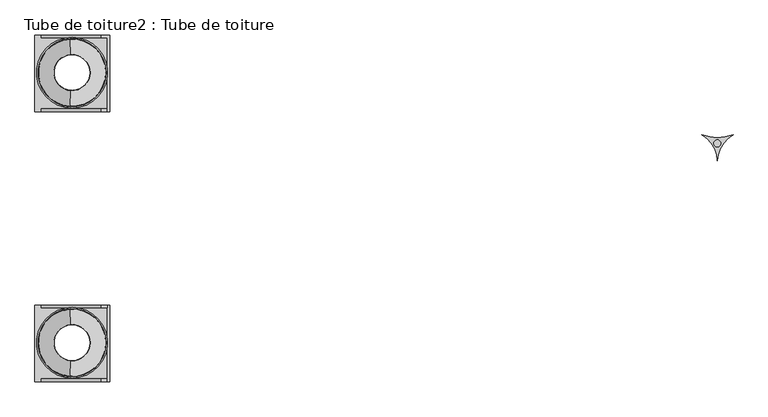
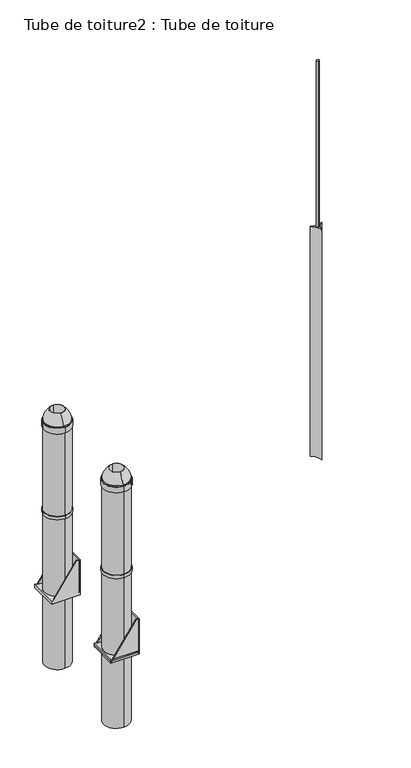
"""IFC4 building model written with IfcOpenShell, lengths in millimetres: proxy geometry, Tube de toiture2 : Tube de toiture."""

import ifcopenshell
import ifcopenshell.guid

model = None  # the IFC model being written
_history = None  # IfcOwnerHistory: only IFC2X3 demands one
_inside = {}  # id of a spatial element -> (the spatial element, [elements in it])
_under = {}  # id of a project, library or spatial element -> (it, [spatial elements below it])
_declared = {}  # id of a project -> (the project, [libraries it declares])
_typed = {}  # id of a type object -> (the type object, [elements of that type])
_made_of = {}  # id of a material, layer set ... -> (it, [elements and type objects made of it])


def new_model(schema):
    """Start an empty IFC model of exactly this schema.

    Asked for "IFC4X3", IfcOpenShell would pick the latest addendum, in which some entities
    have other attributes; the version numbers below select the first issue.
    IFC2X3 requires an IfcOwnerHistory on every rooted entity: one is made here for all.
    """
    global model, _history
    if schema == "IFC4X3":
        model = ifcopenshell.file(schema_version=(4, 3, 0, 0))
    else:
        model = ifcopenshell.file(schema=schema)
    _inside.clear()
    _under.clear()
    _declared.clear()
    _typed.clear()
    _made_of.clear()
    _history = None
    if model.schema == "IFC2X3":
        org = make("IfcOrganization", Name="unknown")
        user = make(
            "IfcPersonAndOrganization",
            ThePerson=make("IfcPerson", FamilyName="unknown"),
            TheOrganization=org,
        )
        app = make(
            "IfcApplication",
            ApplicationDeveloper=org,
            Version="unknown",
            ApplicationFullName="unknown",
            ApplicationIdentifier="unknown",
        )
        _history = make(
            "IfcOwnerHistory",
            OwningUser=user,
            OwningApplication=app,
            ChangeAction="ADDED",
            CreationDate=0,
        )
    return model


def make(cls, **values):
    """One entity of the class cls with the attributes given. An attribute that is None is left unset."""
    return model.create_entity(
        cls, **{name: value for name, value in values.items() if value is not None}
    )


def rooted(cls, **values):
    """An entity with a GlobalId (a new one), such as an element, a storey or a relation."""
    return make(cls, GlobalId=ifcopenshell.guid.new(), OwnerHistory=_history, **values)


def si_unit(unit_type, name, prefix=None):
    """IfcSIUnit, for example si_unit("LENGTHUNIT", "METRE", prefix="MILLI")."""
    return make("IfcSIUnit", UnitType=unit_type, Prefix=prefix, Name=name)


def assignment(units):
    """IfcUnitAssignment: the units of a project."""
    return None if units is None else make("IfcUnitAssignment", Units=units)


def point(xyz):
    """IfcCartesianPoint."""
    return None if xyz is None else make("IfcCartesianPoint", Coordinates=xyz)


def direction(xyz):
    """IfcDirection."""
    return None if xyz is None else make("IfcDirection", DirectionRatios=xyz)


def frame(location, z_axis=None, x_axis=None):
    """IfcAxis2Placement3D, a coordinate frame: its origin and axes. An axis left out is left unset."""
    return make(
        "IfcAxis2Placement3D",
        Location=point(location),
        Axis=direction(z_axis),
        RefDirection=direction(x_axis),
    )


def frame_2d(location, x_axis=None):
    """IfcAxis2Placement2D, a coordinate frame in the plane: its origin and x axis."""
    return make(
        "IfcAxis2Placement2D", Location=point(location), RefDirection=direction(x_axis)
    )


def origin():
    """The frame at (0, 0, 0) with its axes left unset."""
    return frame((0.0, 0.0, 0.0))


def place(relative_to, where):
    """IfcLocalPlacement: puts the frame where relative to a parent placement (None: the world)."""
    return make(
        "IfcLocalPlacement", PlacementRelTo=relative_to, RelativePlacement=where
    )


def context(
    kind, dimensions, precision=None, world=None, true_north=None, identifier=None
):
    """IfcGeometricRepresentationContext, for example the 3D "Model" context."""
    return make(
        "IfcGeometricRepresentationContext",
        ContextIdentifier=identifier,
        ContextType=kind,
        CoordinateSpaceDimension=dimensions,
        Precision=precision,
        WorldCoordinateSystem=world,
        TrueNorth=true_north,
    )


def project(units=None, contexts=None):
    """IfcProject with its units and contexts."""
    return rooted(
        "IfcProject",
        Name="project",
        RepresentationContexts=contexts,
        UnitsInContext=assignment(units),
    )


def spatial(cls, under=None, at=None, **own):
    """A site, building, storey or space (cls), placed at a placement, below another one or the project."""
    s = rooted(cls, ObjectPlacement=at, **own)
    if under is not None:
        _under.setdefault(under.id(), (under, []))[1].append(s)
    return s


def polyline(points):
    """IfcPolyline through the points."""
    return make("IfcPolyline", Points=[point(p) for p in points])


def circle_curve(where, radius):
    """IfcCircle in the frame where."""
    return make("IfcCircle", Position=where, Radius=radius)


def ellipse_curve(where, semi_axis1, semi_axis2):
    """IfcEllipse in the frame where."""
    return make(
        "IfcEllipse", Position=where, SemiAxis1=semi_axis1, SemiAxis2=semi_axis2
    )


def trimmed(basis, trim1, trim2, sense, master):
    """IfcTrimmedCurve: the piece of a basis curve between two trims."""
    return make(
        "IfcTrimmedCurve",
        BasisCurve=basis,
        Trim1=trim1,
        Trim2=trim2,
        SenseAgreement=sense,
        MasterRepresentation=master,
    )


def segment(curve, same_sense, transition):
    """IfcCompositeCurveSegment."""
    return make(
        "IfcCompositeCurveSegment",
        Transition=transition,
        SameSense=same_sense,
        ParentCurve=curve,
    )


def composite_curve(segments, self_intersect=None):
    """IfcCompositeCurve: segments joined end to end."""
    return make("IfcCompositeCurve", Segments=segments, SelfIntersect=self_intersect)


def outline(outer, holes=None, kind="AREA"):
    """IfcArbitraryClosedProfileDef: a profile drawn as a closed curve; with holes, ...WithVoids."""
    if holes is None:
        return make("IfcArbitraryClosedProfileDef", ProfileType=kind, OuterCurve=outer)
    return make(
        "IfcArbitraryProfileDefWithVoids",
        ProfileType=kind,
        OuterCurve=outer,
        InnerCurves=holes,
    )


def extrude(swept, where, along, depth):
    """IfcExtrudedAreaSolid: the profile swept, set in the frame where, extruded along a direction by depth."""
    return make(
        "IfcExtrudedAreaSolid",
        SweptArea=swept,
        Position=where,
        ExtrudedDirection=direction(along),
        Depth=depth,
    )


def shape(context_of_items, identifier, shape_type, items):
    """IfcShapeRepresentation: the items that make up one representation, for example the "Body"."""
    return make(
        "IfcShapeRepresentation",
        ContextOfItems=context_of_items,
        RepresentationIdentifier=identifier,
        RepresentationType=shape_type,
        Items=items,
    )


def source(mapping_origin, context_of_items, identifier, shape_type, items):
    """IfcRepresentationMap: a shape defined once, which mapped items show again and again."""
    return make(
        "IfcRepresentationMap",
        MappingOrigin=mapping_origin,
        MappedRepresentation=shape(context_of_items, identifier, shape_type, items),
    )


def transform(
    local_origin,
    x_axis=None,
    y_axis=None,
    z_axis=None,
    scale=None,
    scale2=None,
    scale3=None,
    uniform=True,
):
    """IfcCartesianTransformationOperator3D, or its non-uniform kind. x_axis, y_axis, z_axis: its Axis1, 2, 3."""
    if uniform:
        return make(
            "IfcCartesianTransformationOperator3D",
            Axis1=direction(x_axis),
            Axis2=direction(y_axis),
            LocalOrigin=point(local_origin),
            Scale=scale,
            Axis3=direction(z_axis),
        )
    return make(
        "IfcCartesianTransformationOperator3DnonUniform",
        Axis1=direction(x_axis),
        Axis2=direction(y_axis),
        LocalOrigin=point(local_origin),
        Scale=scale,
        Axis3=direction(z_axis),
        Scale2=scale2,
        Scale3=scale3,
    )


def mapped(mapping_source, mapping_target):
    """IfcMappedItem: shows the shape of a source again, moved by a transform."""
    return make(
        "IfcMappedItem", MappingSource=mapping_source, MappingTarget=mapping_target
    )


def made_of(thing, what):
    """Note that an element or type object is made of a material, layer set ...; save() writes the relation."""
    if what is not None:
        _made_of.setdefault(what.id(), (what, []))[1].append(thing)
    return thing


def element(
    cls,
    number,
    at=None,
    inside=None,
    cuts=None,
    type_object=None,
    material=None,
    context=None,
    identifier="Body",
    shape_type=None,
    held_by="IfcProductDefinitionShape",
    body=None,
    shapes=None,
    **own,
):
    """One element of the class cls, such as IfcWall. Its Tag is "e" and its number.

    at: its placement. inside: the storey or other place that contains it. cuts: it is an
    opening in that element (IfcRelVoidsElement). A single representation is given by context,
    identifier, shape_type and body (its items); several are given by shapes. held_by: the class
    of the entity that holds the representations. save() writes the other relations.
    """
    e = rooted(cls, Tag="e%d" % number, ObjectPlacement=at, **own)
    if body is not None:
        shapes = [shape(context, identifier, shape_type, body)]
    if shapes is not None:
        e.Representation = make(held_by, Representations=shapes)
    if inside is not None:
        _inside.setdefault(inside.id(), (inside, []))[1].append(e)
    if cuts is not None:
        rooted(
            "IfcRelVoidsElement", RelatingBuildingElement=cuts, RelatedOpeningElement=e
        )
    if type_object is not None:
        _typed.setdefault(type_object.id(), (type_object, []))[1].append(e)
    return made_of(e, material)


def aggregate(whole, parts):
    """IfcRelAggregates: a whole, such as a stair, and the parts it consists of."""
    return rooted("IfcRelAggregates", RelatingObject=whole, RelatedObjects=parts)


def save(model, path):
    """Write the relations noted so far, then the file.

    IfcRelAggregates (storeys below a building ...), IfcRelContainedInSpatialStructure (elements
    in a storey), IfcRelDefinesByType, IfcRelAssociatesMaterial and IfcRelDeclares: one each for
    every whole, place, type object, material and project.
    """
    for whole, parts in _under.values():
        aggregate(whole, parts)
    for where, things in _inside.values():
        rooted(
            "IfcRelContainedInSpatialStructure",
            RelatedElements=things,
            RelatingStructure=where,
        )
    for kind, things in _typed.values():
        rooted("IfcRelDefinesByType", RelatedObjects=things, RelatingType=kind)
    for what, things in _made_of.values():
        rooted("IfcRelAssociatesMaterial", RelatedObjects=things, RelatingMaterial=what)
    for by, libraries in _declared.values():
        rooted("IfcRelDeclares", RelatingContext=by, RelatedDefinitions=libraries)
    model.write(path)


def plane_surface(at):
    """IfcPlane: the flat surface through the origin of the frame at, square to its z axis."""
    return make("IfcPlane", Position=at)


def cylinder_surface(at, radius):
    """IfcCylindricalSurface: all points at the distance radius from the z axis of the frame at."""
    return make("IfcCylindricalSurface", Position=at, Radius=radius)


def revolved_surface(curve, axis_point, axis_direction):
    """IfcSurfaceOfRevolution: the curve turned about the line through axis_point along axis_direction."""
    return make(
        "IfcSurfaceOfRevolution",
        SweptCurve=make("IfcArbitraryOpenProfileDef", ProfileType="CURVE", Curve=curve),
        AxisPosition=make("IfcAxis1Placement", Location=point(axis_point), Axis=direction(axis_direction)),
    )


def advanced_brep(points, edges, surfaces, faces):
    """IfcAdvancedBrep: a solid bounded by faces that lie on surfaces and meet in shared edges.

    An edge is (start, end): straight between two places in points (the first is 0);
    or (start, end, curve); or (start, end, curve, False) where it runs against its curve.
    A face is (place in surfaces, loops), or (place, loops, False) where it looks against
    its surface's normal. A loop lists edges by number (the first is 1), with a minus sign
    where the edge is run from its end to its start. The first loop is the outer one.
    """
    corners = [point(p) for p in points]
    vertices = [make("IfcVertexPoint", VertexGeometry=c) for c in corners]
    made = []
    for start, end, *more in edges:
        made.append(
            make(
                "IfcEdgeCurve",
                EdgeStart=vertices[start],
                EdgeEnd=vertices[end],
                EdgeGeometry=more[0] if more else make("IfcPolyline", Points=[corners[start], corners[end]]),
                SameSense=more[1] if len(more) > 1 else True,
            )
        )
    hull = []
    for where, loops, *sense in faces:
        bounds = []
        for j, loop in enumerate(loops):
            ring = [make("IfcOrientedEdge", EdgeElement=made[abs(k) - 1], Orientation=k > 0) for k in loop]
            bounds.append(
                make(
                    "IfcFaceOuterBound" if j == 0 else "IfcFaceBound",
                    Bound=make("IfcEdgeLoop", EdgeList=ring),
                    Orientation=True,
                )
            )
        hull.append(make("IfcAdvancedFace", Bounds=bounds, FaceSurface=surfaces[where], SameSense=sense[0] if sense else True))
    return make("IfcAdvancedBrep", Outer=make("IfcClosedShell", CfsFaces=hull))


def tube_de_toiture2_tube_de_toiture_19f767d7(model_context):
    return source(origin(), model_context, "Body", "SolidModel", [
        extrude(outline(composite_curve([segment(trimmed(circle_curve(frame_2d((-12534.5612549, -6197.0389396)), 20.0), [point((-12534.5612549, -6177.0389396))], [point((-12534.5612549, -6217.0389396))], False, "CARTESIAN"), True, "CONTINUOUS"), segment(trimmed(circle_curve(frame_2d((-12534.5612549, -6197.0389396)), 20.0), [point((-12534.5612549, -6217.0389396))], [point((-12534.5612549, -6177.0389396))], False, "CARTESIAN"), True, "CONTINUOUS")], self_intersect=False)), frame((0.0, 0.0, 16654.5581821), z_axis=(0.0, 0.0, 1.0), x_axis=(1.0, 0.0, 0.0)), (0.0, 0.0, 1.0), 2605.9757511),
        advanced_brep(
        [(-12533.7057545, -6295.9509825, 16654.5581821), (-12445.6217029, -6148.60967, 16654.5581821), (-12621.789806, -6148.60967, 16654.5581821), (-12533.7057545, -6295.9509825, 13043.3082742), (-12621.789806, -6148.60967, 13043.3082742), (-12445.6217029, -6148.60967, 13043.3082742), (-12533.7057545, -6295.9509825, 13193.3082742), (-12445.6217029, -6148.60967, 13193.3082742), (-12621.789806, -6148.60967, 13193.3082742)],
        [
            (0, 1, circle_curve(frame((-12356.0956502, -6302.1304193, 16654.5581821), z_axis=(0.0, 0.0, -1.0), x_axis=(0.0, -1.0, 0.0)), 177.7175696)),
            (1, 2, circle_curve(frame((-12533.7057545, -5906.6007274, 16654.5581821), z_axis=(0.0, 0.0, -1.0), x_axis=(0.0, -1.0, 0.0)), 257.5405374)),
            (2, 0, circle_curve(frame((-12711.3158587, -6302.1304193, 16654.5581821), z_axis=(0.0, 0.0, -1.0), x_axis=(0.0, -1.0, 0.0)), 177.7175696)),
            (3, 4, circle_curve(frame((-12711.3158587, -6302.1304193, 13043.3082742), z_axis=(0.0, 0.0, 1.0), x_axis=(0.0, -1.0, 0.0)), 177.7175696)),
            (4, 5, circle_curve(frame((-12533.7057545, -5906.6007274, 13043.3082742), z_axis=(0.0, 0.0, 1.0), x_axis=(0.0, -1.0, 0.0)), 257.5405374)),
            (5, 3, circle_curve(frame((-12356.0956502, -6302.1304193, 13043.3082742), z_axis=(0.0, 0.0, 1.0), x_axis=(0.0, -1.0, 0.0)), 177.7175696)),
            (0, 6),
            (6, 3),
            (5, 7),
            (7, 1),
            (4, 8),
            (8, 2),
        ],
        [
            plane_surface(frame((-12356.0956502, -6479.8479889, 16654.5581821), z_axis=(0.0, 0.0, 1.0), x_axis=(-1.0, 0.0, 0.0))),
            plane_surface(frame((-12356.0956502, -6479.8479889, 13043.3082742), z_axis=(0.0, 0.0, -1.0), x_axis=(1.0, 0.0, 0.0))),
            revolved_surface(polyline([(-12356.0956502, -6479.8479889, 13043.3082742), (-12356.0956502, -6479.8479889, 16654.5581821)]), (-12356.0956502, -6302.1304193, 13043.3082742), (0.0, 0.0, -1.0)),
            revolved_surface(polyline([(-12533.7057545, -6164.1412648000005, 13043.3082742), (-12533.7057545, -6164.1412648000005, 16654.5581821)]), (-12533.7057545, -5906.6007274, 13043.3082742), (0.0, 0.0, -1.0)),
            revolved_surface(polyline([(-12711.3158587, -6479.8479889, 13043.3082742), (-12711.3158587, -6479.8479889, 16654.5581821)]), (-12711.3158587, -6302.1304193, 13043.3082742), (0.0, 0.0, -1.0)),
        ],
        [
            (0, [[1, 2, 3]]),
            (1, [[4, 5, 6]]),
            (2, [[-1, 7, 8, -6, 9, 10]]),
            (3, [[-2, -10, -9, -5, 11, 12]]),
            (4, [[-3, -12, -11, -4, -8, -7]]),
        ],
    ),
        advanced_brep(
        [(-16178.394339, -7121.8703591, 14562.0504497), (-16178.394339, -7521.8703591, 14562.0504497), (-16189.6644494, -7132.2049046, 14562.0504497), (-16189.6644494, -7511.5358135, 14562.0504497), (-16178.394339, -7121.8703591, 14651.5144417), (-16178.394339, -7521.8703591, 14651.5144417), (-16189.6644494, -7132.2049046, 14664.2533487), (-16189.6644494, -7511.5358135, 14664.2533487), (-16189.8036732, -7513.8788207, 14651.5144417), (-16189.8036732, -7129.8618975, 14651.5144417)],
        [
            (0, 1, circle_curve(frame((-16178.394339, -7321.8703591, 14562.0504497), z_axis=(0.0, 0.0, -1.0), x_axis=(0.0, -1.0, 0.0)), 200.0)),
            (1, 0, circle_curve(frame((-16178.394339, -7321.8703591, 14562.0504497), z_axis=(0.0, 0.0, -1.0), x_axis=(0.0, -1.0, 0.0)), 200.0)),
            (2, 3, circle_curve(frame((-16178.394339, -7321.8703591, 14562.0504497), z_axis=(0.0, 0.0, 1.0), x_axis=(0.0, -1.0, 0.0)), 190.0)),
            (3, 2, circle_curve(frame((-16178.394339, -7321.8703591, 14562.0504497), z_axis=(0.0, 0.0, 1.0), x_axis=(0.0, -1.0, 0.0)), 190.0)),
            (0, 4),
            (4, 5, circle_curve(frame((-16178.394339, -7321.8703591, 14651.5144417), z_axis=(0.0, 0.0, -1.0), x_axis=(0.0, -1.0, 0.0)), 200.0)),
            (5, 1),
            (5, 4, circle_curve(frame((-16178.394339, -7321.8703591, 14651.5144417), z_axis=(0.0, 0.0, -1.0), x_axis=(0.0, -1.0, 0.0)), 200.0)),
            (2, 6),
            (6, 7, circle_curve(frame((-16178.394339, -7321.8703591, 14664.2533487), z_axis=(0.0, 0.0, 1.0), x_axis=(0.0, -1.0, 0.0)), 190.0)),
            (7, 3),
            (7, 6, circle_curve(frame((-16178.394339, -7321.8703591, 14664.2533487), z_axis=(0.0, 0.0, 1.0), x_axis=(0.0, -1.0, 0.0)), 190.0)),
            (8, 9, circle_curve(frame((-16178.394339, -7321.8703591, 14651.5144417), z_axis=(0.0, 0.0, 1.0), x_axis=(-0.059316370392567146, 0.9982392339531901, 0.0)), 192.3471399)),
            (9, 6, circle_curve(frame((-16173.441676, -7405.2190611, 14607.2761589), z_axis=(0.9982392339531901, 0.059316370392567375, 0.0), x_axis=(-0.059316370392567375, 0.9982392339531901, 0.0)), 279.3676935)),
            (7, 8, circle_curve(frame((-16173.441676, -7238.5216571, 14607.2761589), z_axis=(0.9982392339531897, -0.059316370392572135, 0.0), x_axis=(-0.059316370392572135, -0.9982392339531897, 0.0)), 279.3676935)),
            (8, 9, circle_curve(frame((-16178.394339, -7321.8703591, 14651.5144417), z_axis=(0.0, 0.0, -1.0), x_axis=(-0.059316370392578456, -0.9982392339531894, 0.0)), 192.3471399)),
        ],
        [
            plane_surface(frame((-16178.394339, -7521.8703591, 14562.0504497), z_axis=(0.0, 0.0, -1.0), x_axis=(-1.0, 0.0, 0.0))),
            cylinder_surface(frame((-16178.394339, -7321.8703591, 14562.0504497), z_axis=(0.0, 0.0, 1.0), x_axis=(0.0, -1.0, 0.0)), 200.0),
            revolved_surface(polyline([(-16178.394339, -7511.8703591, 14562.0504497), (-16178.394339, -7511.8703591, 14664.2533487)]), (-16178.394339, -7321.8703591, 14601.5144417), (0.0, 0.0, -1.0)),
            revolved_surface(trimmed(ellipse_curve(frame((-16173.441676, -7405.2190611, 14607.2761589), z_axis=(-0.9982392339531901, -0.059316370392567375, 0.0), x_axis=(-0.059316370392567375, 0.9982392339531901, 0.0)), 279.3676935, 279.3676935), [point((-16184.4217193, -7220.4351662, 14816.5144417))], [point((-16189.8036732, -7129.8618975, 14651.5144417))], True, "CARTESIAN"), (-16178.394339, -7321.8703591, 14664.2533487), (0.0, 0.0, -1.0)),
            plane_surface(frame((-16178.394339, -7321.8703591, 14651.5144417), z_axis=(0.0, 0.0, 1.0000000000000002), x_axis=(-0.05931637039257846, -0.9982392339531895, 0.0))),
            revolved_surface(trimmed(ellipse_curve(frame((-16173.441676, -7238.5216571, 14607.2761589), z_axis=(0.9982392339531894, -0.05931637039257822, 0.0), x_axis=(-0.05931637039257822, -0.9982392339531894, 0.0)), 279.3676935, 279.3676935), [point((-16184.4217193, -7423.305552, 14816.5144417))], [point((-16189.8036732, -7513.8788207, 14651.5144417))], True, "CARTESIAN"), (-16178.394339, -7321.8703591, 14664.2533487), (0.0, 0.0, -1.0)),
        ],
        [
            (0, [[1, 2], [3, 4]]),
            (1, [[-1, 5, 6, 7]]),
            (1, [[-2, -7, 8, -5]]),
            (2, [[-3, 9, 10, 11]]),
            (2, [[-4, -11, 12, -9]]),
            (3, [[13, 14, -12, 15]]),
            (4, [[-6, -8], [-13, 16]]),
            (5, [[-16, -15, -10, -14]]),
        ],
    ),
        advanced_brep(
        [(-16184.4217193, -7423.305552, 14816.5144417), (-16184.4217193, -7220.4351662, 14816.5144417), (-16178.394339, -7221.8703591, 14816.5144417), (-16178.394339, -7421.8703591, 14816.5144417), (-16178.394339, -7131.8703591, 10853.3082742), (-16178.394339, -7511.8703591, 10853.3082742), (-16178.394339, -7221.8703591, 10853.3082742), (-16178.394339, -7421.8703591, 10853.3082742), (-16178.394339, -7511.8703591, 14664.2533487), (-16189.6644494, -7511.5358135, 14664.2533487), (-16189.6644494, -7132.2049046, 14664.2533487), (-16178.394339, -7131.8703591, 14664.2533487)],
        [
            (0, 1, circle_curve(frame((-16178.394339, -7321.8703591, 14816.5144417), z_axis=(0.0, 0.0, 1.0), x_axis=(-0.059316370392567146, 0.9982392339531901, 0.0)), 101.6141116)),
            (1, 0, circle_curve(frame((-16178.394339, -7321.8703591, 14816.5144417), z_axis=(0.0, 0.0, 1.0), x_axis=(-0.059316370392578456, -0.9982392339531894, 0.0)), 101.6141116)),
            (2, 3, circle_curve(frame((-16178.394339, -7321.8703591, 14816.5144417), z_axis=(0.0, 0.0, -1.0), x_axis=(0.0, -1.0, 0.0)), 100.0)),
            (3, 2, circle_curve(frame((-16178.394339, -7321.8703591, 14816.5144417), z_axis=(0.0, 0.0, -1.0), x_axis=(0.0, -1.0, 0.0)), 100.0)),
            (4, 5, circle_curve(frame((-16178.394339, -7321.8703591, 10853.3082742), z_axis=(0.0, 0.0, -1.0), x_axis=(0.0, -1.0, 0.0)), 190.0)),
            (5, 4, circle_curve(frame((-16178.394339, -7321.8703591, 10853.3082742), z_axis=(0.0, 0.0, -1.0), x_axis=(0.0, -1.0, 0.0)), 190.0)),
            (6, 7, circle_curve(frame((-16178.394339, -7321.8703591, 10853.3082742), z_axis=(0.0, 0.0, 1.0), x_axis=(0.0, -1.0, 0.0)), 100.0)),
            (7, 6, circle_curve(frame((-16178.394339, -7321.8703591, 10853.3082742), z_axis=(0.0, 0.0, 1.0), x_axis=(0.0, -1.0, 0.0)), 100.0)),
            (5, 8),
            (8, 9, circle_curve(frame((-16178.394339, -7321.8703591, 14664.2533487), z_axis=(0.0, 0.0, -1.0), x_axis=(0.0, -1.0, 0.0)), 190.0)),
            (9, 10, circle_curve(frame((-16178.394339, -7321.8703591, 14664.2533487), z_axis=(0.0, 0.0, -1.0), x_axis=(0.0, -1.0, 0.0)), 190.0)),
            (10, 11, circle_curve(frame((-16178.394339, -7321.8703591, 14664.2533487), z_axis=(0.0, 0.0, -1.0), x_axis=(0.0, -1.0, 0.0)), 190.0)),
            (11, 4),
            (11, 8, circle_curve(frame((-16178.394339, -7321.8703591, 14664.2533487), z_axis=(0.0, 0.0, -1.0), x_axis=(0.0, -1.0, 0.0)), 190.0)),
            (2, 6),
            (7, 3),
            (0, 9, circle_curve(frame((-16173.441676, -7238.5216571, 14607.2761589), z_axis=(0.9982392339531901, -0.059316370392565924, 0.0), x_axis=(-0.059316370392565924, -0.9982392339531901, 0.0)), 279.3676935)),
            (10, 1, circle_curve(frame((-16173.441676, -7405.2190611, 14607.2761589), z_axis=(0.9982392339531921, 0.05931637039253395, 0.0), x_axis=(-0.05931637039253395, 0.9982392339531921, 0.0)), 279.3676935)),
        ],
        [
            plane_surface(frame((-16178.394339, -7511.8703591, 14816.5144417), z_axis=(0.0, 0.0, 1.0), x_axis=(1.0, 0.0, 0.0))),
            plane_surface(frame((-16178.394339, -7511.8703591, 10853.3082742), z_axis=(0.0, 0.0, -1.0), x_axis=(-1.0, 0.0, 0.0))),
            cylinder_surface(frame((-16178.394339, -7321.8703591, 10853.3082742), z_axis=(0.0, 0.0, 1.0), x_axis=(0.0, -1.0, 0.0)), 190.0),
            revolved_surface(polyline([(-16178.394339, -7421.8703591, 10853.3082742), (-16178.394339, -7421.8703591, 14816.5144417)]), (-16178.394339, -7321.8703591, 10853.3082742), (0.0, 0.0, -1.0)),
            revolved_surface(trimmed(ellipse_curve(frame((-16173.441676, -7405.2190611, 14607.2761589), z_axis=(-0.9982392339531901, -0.059316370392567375, 0.0), x_axis=(-0.059316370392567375, 0.9982392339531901, 0.0)), 279.3676935, 279.3676935), [point((-16184.4217193, -7220.4351662, 14816.5144417))], [point((-16189.8036732, -7129.8618975, 14651.5144417))], True, "CARTESIAN"), (-16178.394339, -7321.8703591, 14664.2533487), (0.0, 0.0, -1.0)),
            revolved_surface(trimmed(ellipse_curve(frame((-16173.441676, -7238.5216571, 14607.2761589), z_axis=(0.9982392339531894, -0.05931637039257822, 0.0), x_axis=(-0.05931637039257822, -0.9982392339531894, 0.0)), 279.3676935, 279.3676935), [point((-16184.4217193, -7423.305552, 14816.5144417))], [point((-16189.8036732, -7513.8788207, 14651.5144417))], True, "CARTESIAN"), (-16178.394339, -7321.8703591, 14664.2533487), (0.0, 0.0, -1.0)),
        ],
        [
            (0, [[1, 2], [3, 4]]),
            (1, [[5, 6], [7, 8]]),
            (2, [[-6, 9, 10, 11, 12, 13]]),
            (2, [[-5, -13, 14, -9]]),
            (3, [[-3, 15, -8, 16]]),
            (3, [[-4, -16, -7, -15]]),
            (4, [[17, -10, -14, -12, 18, -1]]),
            (5, [[-17, -2, -18, -11]]),
        ],
    ),
        extrude(outline(polyline([(11953.3082742, -15980.9365049), (12503.3082742, -15980.9365049), (12503.3082742, -16012.1865049), (11953.3082742, -16388.1440191), (11953.3082742, -15980.9365049)])), frame((0.0, -7124.5508463, 0.0), z_axis=(0.0, 1.0, 0.0), x_axis=(0.0, 0.0, 1.0)), (0.0, 0.0, 1.0), 15.0),
        extrude(outline(composite_curve([segment(trimmed(circle_curve(frame_2d((-16178.394339, -7321.8703591)), 200.0), [point((-16178.394339, -7521.8703591))], [point((-16178.394339, -7121.8703591))], False, "CARTESIAN"), True, "CONTINUOUS"), segment(trimmed(circle_curve(frame_2d((-16178.394339, -7321.8703591)), 200.0), [point((-16178.394339, -7121.8703591))], [point((-16178.394339, -7521.8703591))], False, "CARTESIAN"), True, "CONTINUOUS")], self_intersect=False), holes=[composite_curve([segment(trimmed(circle_curve(frame_2d((-16178.394339, -7321.8703591)), 190.0), [point((-16178.394339, -7511.8703591))], [point((-16178.394339, -7131.8703591))], True, "CARTESIAN"), True, "CONTINUOUS"), segment(trimmed(circle_curve(frame_2d((-16178.394339, -7321.8703591)), 190.0), [point((-16178.394339, -7131.8703591))], [point((-16178.394339, -7511.8703591))], True, "CARTESIAN"), True, "CONTINUOUS")], self_intersect=False)]), frame((0.0, 0.0, 13213.3082742), z_axis=(0.0, 0.0, 1.0), x_axis=(1.0, 0.0, 0.0)), (0.0, 0.0, 1.0), 50.0),
        extrude(outline(polyline([(-16388.1440191, -7109.5508463), (-15965.9365049, -7109.5508463), (-15965.9365049, -7541.1697313), (-16388.1440191, -7541.1697313), (-16388.1440191, -7109.5508463)]), holes=[composite_curve([segment(trimmed(circle_curve(frame_2d((-16178.394339, -7321.8703591)), 190.0), [point((-16178.394339, -7131.8703591))], [point((-16178.394339, -7511.8703591))], True, "CARTESIAN"), True, "CONTINUOUS"), segment(trimmed(circle_curve(frame_2d((-16178.394339, -7321.8703591)), 190.0), [point((-16178.394339, -7511.8703591))], [point((-16178.394339, -7131.8703591))], True, "CARTESIAN"), True, "CONTINUOUS")], self_intersect=False)]), frame((0.0, 0.0, 11983.3082742), z_axis=(0.0, 0.0, 1.0), x_axis=(1.0, 0.0, 0.0)), (0.0, 0.0, 1.0), 20.0),
        extrude(outline(polyline([(11953.3082742, -15982.1865049), (12503.3082742, -15982.1865049), (12503.3082742, -16012.1865049), (11953.3082742, -16388.1440191), (11953.3082742, -15982.1865049)])), frame((0.0, -7541.1697313, 0.0), z_axis=(0.0, 1.0, 0.0), x_axis=(0.0, 0.0, 1.0)), (0.0, 0.0, 1.0), 15.0),
        extrude(outline(polyline([(-15980.9365049, -7109.5508463), (-15965.9365049, -7109.5508463), (-15965.9365049, -7541.1697313), (-15980.9365049, -7541.1697313), (-15980.9365049, -7109.5508463)])), frame((0.0, 0.0, 12003.3082742), z_axis=(0.0, 0.0, 1.0), x_axis=(1.0, 0.0, 0.0)), (0.0, 0.0, 1.0), 500.0),
        extrude(outline(polyline([(-16388.1440191, -7541.1697313), (-16388.1440191, -7109.5508463), (-15965.9365049, -7109.5508463), (-15965.9365049, -7541.1697313), (-16388.1440191, -7541.1697313)]), holes=[polyline([(-15980.9365049, -7124.5508463), (-16373.1440191, -7124.5508463), (-16373.1440191, -7526.1697313), (-15980.9365049, -7526.1697313), (-15980.9365049, -7124.5508463)])]), frame((0.0, 0.0, 11953.3082742), z_axis=(0.0, 0.0, 1.0), x_axis=(1.0, 0.0, 0.0)), (0.0, 0.0, 1.0), 50.0),
        extrude(outline(composite_curve([segment(trimmed(circle_curve(frame_2d((-16178.394339, -7321.8703591)), 190.0), [point((-16178.394339, -7131.8703591))], [point((-16178.394339, -7511.8703591))], False, "CARTESIAN"), True, "CONTINUOUS"), segment(trimmed(circle_curve(frame_2d((-16178.394339, -7321.8703591)), 190.0), [point((-16178.394339, -7511.8703591))], [point((-16178.394339, -7131.8703591))], False, "CARTESIAN"), True, "CONTINUOUS")], self_intersect=False), holes=[composite_curve([segment(trimmed(circle_curve(frame_2d((-16178.394339, -7321.8703591)), 165.0), [point((-16178.394339, -7486.8703591))], [point((-16178.394339, -7156.8703591))], True, "CARTESIAN"), True, "CONTINUOUS"), segment(trimmed(circle_curve(frame_2d((-16178.394339, -7321.8703591)), 165.0), [point((-16178.394339, -7156.8703591))], [point((-16178.394339, -7486.8703591))], True, "CARTESIAN"), True, "CONTINUOUS")], self_intersect=False)]), frame((0.0, 0.0, 11953.3082742), z_axis=(0.0, 0.0, 1.0), x_axis=(1.0, 0.0, 0.0)), (0.0, 0.0, 1.0), 50.0),
        advanced_brep(
        [(-16178.394339, -5596.8703591, 14562.0504497), (-16178.394339, -5996.8703591, 14562.0504497), (-16189.6644494, -5607.2049046, 14562.0504497), (-16189.6644494, -5986.5358135, 14562.0504497), (-16178.394339, -5596.8703591, 14651.5144417), (-16178.394339, -5996.8703591, 14651.5144417), (-16189.6644494, -5607.2049046, 14664.2533487), (-16189.6644494, -5986.5358135, 14664.2533487), (-16189.8036732, -5988.8788207, 14651.5144417), (-16189.8036732, -5604.8618975, 14651.5144417)],
        [
            (0, 1, circle_curve(frame((-16178.394339, -5796.8703591, 14562.0504497), z_axis=(0.0, 0.0, -1.0), x_axis=(0.0, -1.0, 0.0)), 200.0)),
            (1, 0, circle_curve(frame((-16178.394339, -5796.8703591, 14562.0504497), z_axis=(0.0, 0.0, -1.0), x_axis=(0.0, -1.0, 0.0)), 200.0)),
            (2, 3, circle_curve(frame((-16178.394339, -5796.8703591, 14562.0504497), z_axis=(0.0, 0.0, 1.0), x_axis=(0.0, -1.0, 0.0)), 190.0)),
            (3, 2, circle_curve(frame((-16178.394339, -5796.8703591, 14562.0504497), z_axis=(0.0, 0.0, 1.0), x_axis=(0.0, -1.0, 0.0)), 190.0)),
            (0, 4),
            (4, 5, circle_curve(frame((-16178.394339, -5796.8703591, 14651.5144417), z_axis=(0.0, 0.0, -1.0), x_axis=(0.0, -1.0, 0.0)), 200.0)),
            (5, 1),
            (5, 4, circle_curve(frame((-16178.394339, -5796.8703591, 14651.5144417), z_axis=(0.0, 0.0, -1.0), x_axis=(0.0, -1.0, 0.0)), 200.0)),
            (2, 6),
            (6, 7, circle_curve(frame((-16178.394339, -5796.8703591, 14664.2533487), z_axis=(0.0, 0.0, 1.0), x_axis=(0.0, -1.0, 0.0)), 190.0)),
            (7, 3),
            (7, 6, circle_curve(frame((-16178.394339, -5796.8703591, 14664.2533487), z_axis=(0.0, 0.0, 1.0), x_axis=(0.0, -1.0, 0.0)), 190.0)),
            (8, 9, circle_curve(frame((-16178.394339, -5796.8703591, 14651.5144417), z_axis=(0.0, 0.0, 1.0), x_axis=(-0.059316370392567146, 0.9982392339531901, 0.0)), 192.3471399)),
            (9, 6, circle_curve(frame((-16173.441676, -5880.2190611, 14607.2761589), z_axis=(0.9982392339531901, 0.059316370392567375, 0.0), x_axis=(-0.059316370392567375, 0.9982392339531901, 0.0)), 279.3676935)),
            (7, 8, circle_curve(frame((-16173.441676, -5713.5216571, 14607.2761589), z_axis=(0.9982392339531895, -0.0593163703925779, 0.0), x_axis=(-0.0593163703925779, -0.9982392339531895, 0.0)), 279.3676935)),
            (8, 9, circle_curve(frame((-16178.394339, -5796.8703591, 14651.5144417), z_axis=(0.0, 0.0, -1.0), x_axis=(-0.059316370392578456, -0.9982392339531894, 0.0)), 192.3471399)),
        ],
        [
            plane_surface(frame((-16178.394339, -5996.8703591, 14562.0504497), z_axis=(0.0, 0.0, -1.0), x_axis=(-1.0, 0.0, 0.0))),
            cylinder_surface(frame((-16178.394339, -5796.8703591, 14562.0504497), z_axis=(0.0, 0.0, 1.0), x_axis=(0.0, -1.0, 0.0)), 200.0),
            revolved_surface(polyline([(-16178.394339, -5986.8703591, 14562.0504497), (-16178.394339, -5986.8703591, 14664.2533487)]), (-16178.394339, -5796.8703591, 14601.5144417), (0.0, 0.0, -1.0)),
            revolved_surface(trimmed(ellipse_curve(frame((-16173.441676, -5880.2190611, 14607.2761589), z_axis=(-0.9982392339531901, -0.059316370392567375, 0.0), x_axis=(-0.059316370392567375, 0.9982392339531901, 0.0)), 279.3676935, 279.3676935), [point((-16184.4217193, -5695.4351662, 14816.5144417))], [point((-16189.8036732, -5604.8618975, 14651.5144417))], True, "CARTESIAN"), (-16178.394339, -5796.8703591, 14664.2533487), (0.0, 0.0, -1.0)),
            plane_surface(frame((-16178.394339, -5796.8703591, 14651.5144417), z_axis=(0.0, 0.0, 1.0000000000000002), x_axis=(-0.05931637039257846, -0.9982392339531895, 0.0))),
            revolved_surface(trimmed(ellipse_curve(frame((-16173.441676, -5713.5216571, 14607.2761589), z_axis=(0.9982392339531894, -0.05931637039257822, 0.0), x_axis=(-0.05931637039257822, -0.9982392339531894, 0.0)), 279.3676935, 279.3676935), [point((-16184.4217193, -5898.305552, 14816.5144417))], [point((-16189.8036732, -5988.8788207, 14651.5144417))], True, "CARTESIAN"), (-16178.394339, -5796.8703591, 14664.2533487), (0.0, 0.0, -1.0)),
        ],
        [
            (0, [[1, 2], [3, 4]]),
            (1, [[-1, 5, 6, 7]]),
            (1, [[-2, -7, 8, -5]]),
            (2, [[-3, 9, 10, 11]]),
            (2, [[-4, -11, 12, -9]]),
            (3, [[13, 14, -12, 15]]),
            (4, [[-6, -8], [-13, 16]]),
            (5, [[-16, -15, -10, -14]]),
        ],
    ),
        advanced_brep(
        [(-16184.4217193, -5898.305552, 14816.5144417), (-16184.4217193, -5695.4351662, 14816.5144417), (-16178.394339, -5696.8703591, 14816.5144417), (-16178.394339, -5896.8703591, 14816.5144417), (-16178.394339, -5606.8703591, 10853.3082742), (-16178.394339, -5986.8703591, 10853.3082742), (-16178.394339, -5696.8703591, 10853.3082742), (-16178.394339, -5896.8703591, 10853.3082742), (-16178.394339, -5986.8703591, 14664.2533487), (-16189.6644494, -5986.5358135, 14664.2533487), (-16189.6644494, -5607.2049046, 14664.2533487), (-16178.394339, -5606.8703591, 14664.2533487)],
        [
            (0, 1, circle_curve(frame((-16178.394339, -5796.8703591, 14816.5144417), z_axis=(0.0, 0.0, 1.0), x_axis=(-0.059316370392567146, 0.9982392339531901, 0.0)), 101.6141116)),
            (1, 0, circle_curve(frame((-16178.394339, -5796.8703591, 14816.5144417), z_axis=(0.0, 0.0, 1.0), x_axis=(-0.059316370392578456, -0.9982392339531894, 0.0)), 101.6141116)),
            (2, 3, circle_curve(frame((-16178.394339, -5796.8703591, 14816.5144417), z_axis=(0.0, 0.0, -1.0), x_axis=(0.0, -1.0, 0.0)), 100.0)),
            (3, 2, circle_curve(frame((-16178.394339, -5796.8703591, 14816.5144417), z_axis=(0.0, 0.0, -1.0), x_axis=(0.0, -1.0, 0.0)), 100.0)),
            (4, 5, circle_curve(frame((-16178.394339, -5796.8703591, 10853.3082742), z_axis=(0.0, 0.0, -1.0), x_axis=(0.0, -1.0, 0.0)), 190.0)),
            (5, 4, circle_curve(frame((-16178.394339, -5796.8703591, 10853.3082742), z_axis=(0.0, 0.0, -1.0), x_axis=(0.0, -1.0, 0.0)), 190.0)),
            (6, 7, circle_curve(frame((-16178.394339, -5796.8703591, 10853.3082742), z_axis=(0.0, 0.0, 1.0), x_axis=(0.0, -1.0, 0.0)), 100.0)),
            (7, 6, circle_curve(frame((-16178.394339, -5796.8703591, 10853.3082742), z_axis=(0.0, 0.0, 1.0), x_axis=(0.0, -1.0, 0.0)), 100.0)),
            (5, 8),
            (8, 9, circle_curve(frame((-16178.394339, -5796.8703591, 14664.2533487), z_axis=(0.0, 0.0, -1.0), x_axis=(0.0, -1.0, 0.0)), 190.0)),
            (9, 10, circle_curve(frame((-16178.394339, -5796.8703591, 14664.2533487), z_axis=(0.0, 0.0, -1.0), x_axis=(0.0, -1.0, 0.0)), 190.0)),
            (10, 11, circle_curve(frame((-16178.394339, -5796.8703591, 14664.2533487), z_axis=(0.0, 0.0, -1.0), x_axis=(0.0, -1.0, 0.0)), 190.0)),
            (11, 4),
            (11, 8, circle_curve(frame((-16178.394339, -5796.8703591, 14664.2533487), z_axis=(0.0, 0.0, -1.0), x_axis=(0.0, -1.0, 0.0)), 190.0)),
            (2, 6),
            (7, 3),
            (0, 9, circle_curve(frame((-16173.441676, -5713.5216571, 14607.2761589), z_axis=(0.9982392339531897, -0.05931637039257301, 0.0), x_axis=(-0.05931637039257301, -0.9982392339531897, 0.0)), 279.3676935)),
            (10, 1, circle_curve(frame((-16173.441676, -5880.2190611, 14607.2761589), z_axis=(0.9982392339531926, 0.05931637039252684, 0.0), x_axis=(-0.05931637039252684, 0.9982392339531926, 0.0)), 279.3676935)),
        ],
        [
            plane_surface(frame((-16178.394339, -5986.8703591, 14816.5144417), z_axis=(0.0, 0.0, 1.0), x_axis=(1.0, 0.0, 0.0))),
            plane_surface(frame((-16178.394339, -5986.8703591, 10853.3082742), z_axis=(0.0, 0.0, -1.0), x_axis=(-1.0, 0.0, 0.0))),
            cylinder_surface(frame((-16178.394339, -5796.8703591, 10853.3082742), z_axis=(0.0, 0.0, 1.0), x_axis=(0.0, -1.0, 0.0)), 190.0),
            revolved_surface(polyline([(-16178.394339, -5896.8703591, 10853.3082742), (-16178.394339, -5896.8703591, 14816.5144417)]), (-16178.394339, -5796.8703591, 10853.3082742), (0.0, 0.0, -1.0)),
            revolved_surface(trimmed(ellipse_curve(frame((-16173.441676, -5880.2190611, 14607.2761589), z_axis=(-0.9982392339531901, -0.059316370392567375, 0.0), x_axis=(-0.059316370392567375, 0.9982392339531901, 0.0)), 279.3676935, 279.3676935), [point((-16184.4217193, -5695.4351662, 14816.5144417))], [point((-16189.8036732, -5604.8618975, 14651.5144417))], True, "CARTESIAN"), (-16178.394339, -5796.8703591, 14664.2533487), (0.0, 0.0, -1.0)),
            revolved_surface(trimmed(ellipse_curve(frame((-16173.441676, -5713.5216571, 14607.2761589), z_axis=(0.9982392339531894, -0.05931637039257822, 0.0), x_axis=(-0.05931637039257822, -0.9982392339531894, 0.0)), 279.3676935, 279.3676935), [point((-16184.4217193, -5898.305552, 14816.5144417))], [point((-16189.8036732, -5988.8788207, 14651.5144417))], True, "CARTESIAN"), (-16178.394339, -5796.8703591, 14664.2533487), (0.0, 0.0, -1.0)),
        ],
        [
            (0, [[1, 2], [3, 4]]),
            (1, [[5, 6], [7, 8]]),
            (2, [[-6, 9, 10, 11, 12, 13]]),
            (2, [[-5, -13, 14, -9]]),
            (3, [[-3, 15, -8, 16]]),
            (3, [[-4, -16, -7, -15]]),
            (4, [[17, -10, -14, -12, 18, -1]]),
            (5, [[-17, -2, -18, -11]]),
        ],
    ),
        advanced_brep(
        [(-16388.1440191, -5584.5508463, 12003.3082742), (-16388.1440191, -6016.1697313, 12003.3082742), (-16353.9660633, -6016.1697313, 12003.3082742), (-16353.9660633, -6001.1697313, 12003.3082742), (-15982.1865049, -6001.1697313, 12003.3082742), (-15982.1865049, -6016.1697313, 12003.3082742), (-15980.9365049, -6016.1697313, 12003.3082742), (-15980.9365049, -5599.5508463, 12003.3082742), (-16353.9660633, -5599.5508463, 12003.3082742), (-16353.9660633, -5584.5508463, 12003.3082742), (-16178.394339, -5961.8703591, 12003.3082742), (-16178.394339, -5631.8703591, 12003.3082742), (-16388.1440191, -5584.5508463, 11953.3082742), (-16388.1440191, -5599.5508463, 11953.3082742), (-16388.1440191, -6016.1697313, 11953.3082742), (-16388.1440191, -6016.1697313, 11983.3082742), (-15980.9365049, -6016.1697313, 12503.3082742), (-15965.9365049, -6016.1697313, 12503.3082742), (-15965.9365049, -5584.5508463, 12503.3082742), (-16012.1865049, -5584.5508463, 12503.3082742), (-16012.1865049, -5599.5508463, 12503.3082742), (-15980.9365049, -5599.5508463, 12503.3082742), (-15965.9365049, -5584.5508463, 11953.3082742), (-15965.9365049, -6016.1697313, 12003.3082742), (-15965.9365049, -6016.1697313, 11983.3082742), (-15965.9365049, -6016.1697313, 11953.3082742), (-15980.9365049, -5599.5508463, 11953.3082742), (-15980.9365049, -6001.1697313, 11953.3082742), (-15980.9365049, -6001.1697313, 11983.3082742), (-15980.9365049, -5599.5508463, 11983.3082742), (-15982.1865049, -6016.1697313, 12503.3082742), (-16012.1865049, -6016.1697313, 12503.3082742), (-16012.1865049, -6001.1697313, 12503.3082742), (-15982.1865049, -6001.1697313, 12503.3082742), (-16373.1440191, -6001.1697313, 11953.3082742), (-16373.1440191, -6001.1697313, 11983.3082742), (-16178.394339, -5606.8703591, 11953.3082742), (-16178.394339, -5986.8703591, 11953.3082742), (-16178.394339, -5961.8703591, 11953.3082742), (-16178.394339, -5631.8703591, 11953.3082742), (-16373.1440191, -5599.5508463, 11953.3082742), (-16373.1440191, -5599.5508463, 11983.3082742), (-16367.6372456, -5599.5508463, 11983.3082742), (-16178.394339, -5606.8703591, 11983.3082742), (-16178.394339, -5986.8703591, 11983.3082742), (-16373.1440191, -5599.5508463, 11975.2522431)],
        [
            (0, 1),
            (1, 2),
            (2, 3),
            (3, 4),
            (4, 5),
            (5, 6),
            (6, 7),
            (7, 8),
            (8, 9),
            (9, 0),
            (10, 11, circle_curve(frame((-16178.394339, -5796.8703591, 12003.3082742), z_axis=(0.0, 0.0, -1.0), x_axis=(0.0, -1.0, 0.0)), 165.0)),
            (11, 10, circle_curve(frame((-16178.394339, -5796.8703591, 12003.3082742), z_axis=(0.0, 0.0, -1.0), x_axis=(0.0, -1.0, 0.0)), 165.0)),
            (0, 12),
            (12, 13),
            (13, 14),
            (14, 15),
            (15, 1),
            (16, 17),
            (17, 18),
            (18, 19),
            (19, 20),
            (20, 21),
            (21, 16),
            (22, 18),
            (17, 23),
            (23, 24),
            (24, 25),
            (25, 22),
            (22, 12),
            (9, 19),
            (6, 16),
            (21, 7),
            (26, 27),
            (27, 28),
            (28, 29),
            (29, 26),
            (30, 31),
            (31, 2),
            (14, 25),
            (5, 30),
            (32, 33),
            (33, 4),
            (3, 32),
            (27, 34),
            (34, 35),
            (35, 28),
            (33, 30),
            (31, 32),
            (36, 37, circle_curve(frame((-16178.394339, -5796.8703591, 11953.3082742), z_axis=(0.0, 0.0, -1.0), x_axis=(0.0, -1.0, 0.0)), 190.0)),
            (37, 36, circle_curve(frame((-16178.394339, -5796.8703591, 11953.3082742), z_axis=(0.0, 0.0, -1.0), x_axis=(0.0, -1.0, 0.0)), 190.0)),
            (38, 39, circle_curve(frame((-16178.394339, -5796.8703591, 11953.3082742), z_axis=(0.0, 0.0, 1.0), x_axis=(0.0, -1.0, 0.0)), 165.0)),
            (39, 38, circle_curve(frame((-16178.394339, -5796.8703591, 11953.3082742), z_axis=(0.0, 0.0, 1.0), x_axis=(0.0, -1.0, 0.0)), 165.0)),
            (26, 40),
            (40, 34),
            (35, 41),
            (41, 42),
            (42, 29),
            (43, 44, circle_curve(frame((-16178.394339, -5796.8703591, 11983.3082742), z_axis=(0.0, 0.0, 1.0), x_axis=(0.0, -1.0, 0.0)), 190.0)),
            (44, 43, circle_curve(frame((-16178.394339, -5796.8703591, 11983.3082742), z_axis=(0.0, 0.0, 1.0), x_axis=(0.0, -1.0, 0.0)), 190.0)),
            (40, 45),
            (45, 41),
            (37, 44),
            (43, 36),
            (10, 38),
            (39, 11),
            (20, 8),
        ],
        [
            plane_surface(frame((-16595.6960565, -6016.1697313, 12003.3082742), z_axis=(0.0, 0.0, 1.0), x_axis=(1.0, 0.0, 0.0))),
            plane_surface(frame((-16388.1440191, -5584.5508463, 12003.3082742), z_axis=(-1.0, 0.0, 0.0), x_axis=(0.0, 0.0, -1.0))),
            plane_surface(frame((-15980.9365049, -5973.734805, 12503.3082742), z_axis=(0.0, 0.0, 1.0), x_axis=(0.0, -1.0, 0.0))),
            plane_surface(frame((-15965.9365049, -6016.1697313, 12503.3082742), z_axis=(1.0, 0.0, 0.0), x_axis=(0.0, 0.0, -1.0))),
            plane_surface(frame((-15965.9365049, -5584.5508463, 12503.3082742), z_axis=(0.0, 1.0, 0.0), x_axis=(0.0, 0.0, -1.0))),
            plane_surface(frame((-15980.9365049, -5584.5508463, 12503.3082742), z_axis=(-1.0, 0.0, 0.0), x_axis=(0.0, 0.0, -1.0))),
            plane_surface(frame((-15982.1865049, -6016.1697313, 12503.3082742), z_axis=(0.0, -1.0, 0.0), x_axis=(0.0, 0.0, 1.0))),
            plane_surface(frame((-15982.1865049, -6001.1697313, 12503.3082742), z_axis=(0.0, 1.0, 0.0), x_axis=(0.0, 0.0, -1.0))),
            plane_surface(frame((-15982.1865049, -6016.1697313, 11953.3082742), z_axis=(1.0, 0.0, 0.0), x_axis=(0.0, 1.0, 0.0))),
            plane_surface(frame((-16012.1865049, -6016.1697313, 12503.3082742), z_axis=(-0.8255578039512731, 0.0, 0.5643175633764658), x_axis=(0.0, 1.0, 0.0))),
            plane_surface(frame((-16388.1440191, -6016.1697313, 11953.3082742), z_axis=(0.0, 0.0, -1.0), x_axis=(0.0, 1.0, 0.0))),
            plane_surface(frame((-15982.1865049, -6016.1697313, 12503.3082742), z_axis=(0.0, 0.0, 1.0), x_axis=(0.0, 1.0, 0.0))),
            plane_surface(frame((-16178.394339, -5986.8703591, 11983.3082742), z_axis=(0.0, 0.0, -1.0), x_axis=(1.0, 0.0, 0.0))),
            plane_surface(frame((-16373.1440191, -6001.1697313, 12003.3082742), z_axis=(1.0, 0.0, 0.0), x_axis=(0.0, 0.0, -1.0))),
            plane_surface(frame((-16373.1440191, -5599.5508463, 12003.3082742), z_axis=(0.0, -1.0, 0.0), x_axis=(0.0, 0.0, -1.0))),
            cylinder_surface(frame((-16178.394339, -5796.8703591, 11953.3082742), z_axis=(0.0, 0.0, 1.0), x_axis=(0.0, -1.0, 0.0)), 190.0),
            revolved_surface(polyline([(-16178.394339, -5961.8703591, 11953.3082742), (-16178.394339, -5961.8703591, 12003.3082742)]), (-16178.394339, -5796.8703591, 11953.3082742), (0.0, 0.0, -1.0)),
            plane_surface(frame((-15980.9365049, -5599.5508463, 12503.3082742), z_axis=(0.0, -1.0, 0.0), x_axis=(0.0, 0.0, 1.0))),
            plane_surface(frame((-16012.1865049, -5599.5508463, 12503.3082742), z_axis=(-0.8255578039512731, 0.0, 0.5643175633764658), x_axis=(0.0, 1.0, 0.0))),
        ],
        [
            (0, [[1, 2, 3, 4, 5, 6, 7, 8, 9, 10], [11, 12]]),
            (1, [[-1, 13, 14, 15, 16, 17]]),
            (2, [[18, 19, 20, 21, 22, 23]]),
            (3, [[24, -19, 25, 26, 27, 28]]),
            (4, [[-20, -24, 29, -13, -10, 30]]),
            (5, [[31, -23, 32, -7]]),
            (5, [[33, 34, 35, 36]]),
            (6, [[37, 38, -2, -17, -16, 39, -27, -26, -25, -18, -31, -6, 40]]),
            (7, [[41, 42, -4, 43]]),
            (7, [[44, 45, 46, -34]]),
            (8, [[47, -40, -5, -42]]),
            (9, [[48, -43, -3, -38]]),
            (10, [[49, 50], [51, 52]]),
            (10, [[-29, -28, -39, -15, -14], [53, 54, -44, -33]]),
            (11, [[-37, -47, -41, -48]]),
            (12, [[-46, 55, 56, 57, -35], [58, 59]]),
            (13, [[-54, 60, 61, -55, -45]]),
            (14, [[-53, -36, -57, -56, -61, -60]]),
            (15, [[-50, 62, -58, 63]]),
            (15, [[-49, -63, -59, -62]]),
            (16, [[-11, 64, -52, 65]]),
            (16, [[-12, -65, -51, -64]]),
            (17, [[-22, 66, -8, -32]]),
            (18, [[-21, -30, -9, -66]]),
        ],
    ),
        extrude(outline(composite_curve([segment(trimmed(circle_curve(frame_2d((-16178.394339, -5796.8703591)), 200.0), [point((-16178.394339, -5996.8703591))], [point((-16178.394339, -5596.8703591))], False, "CARTESIAN"), True, "CONTINUOUS"), segment(trimmed(circle_curve(frame_2d((-16178.394339, -5796.8703591)), 200.0), [point((-16178.394339, -5596.8703591))], [point((-16178.394339, -5996.8703591))], False, "CARTESIAN"), True, "CONTINUOUS")], self_intersect=False), holes=[composite_curve([segment(trimmed(circle_curve(frame_2d((-16178.394339, -5796.8703591)), 190.0), [point((-16178.394339, -5986.8703591))], [point((-16178.394339, -5606.8703591))], True, "CARTESIAN"), True, "CONTINUOUS"), segment(trimmed(circle_curve(frame_2d((-16178.394339, -5796.8703591)), 190.0), [point((-16178.394339, -5606.8703591))], [point((-16178.394339, -5986.8703591))], True, "CARTESIAN"), True, "CONTINUOUS")], self_intersect=False)]), frame((0.0, 0.0, 13213.3082742), z_axis=(0.0, 0.0, 1.0), x_axis=(1.0, 0.0, 0.0)), (0.0, 0.0, 1.0), 50.0),
    ])


if __name__ == "__main__":
    model = new_model("IFC4")
    model_context = context("Model", 3, world=origin())
    ifc_project = project(units=[si_unit("LENGTHUNIT", "METRE", prefix="MILLI")], contexts=[model_context])
    site = spatial("IfcSite", under=ifc_project)
    building = spatial("IfcBuilding", under=site)
    placement = place(None, origin())
    tube_de_toiture2_tube_de_toiture_shape = tube_de_toiture2_tube_de_toiture_19f767d7(model_context)
    element("IfcBuildingElementProxy", 1, Name="Tube de toiture2 : Tube de toiture", ObjectType="Tube de toiture2 : Tube de toiture", at=placement, inside=building, context=model_context, shape_type="MappedRepresentation", body=[
        mapped(tube_de_toiture2_tube_de_toiture_shape, transform((0.0, 0.0, 0.0), x_axis=(1.0, 0.0, 0.0), y_axis=(0.0, 1.0, 0.0), z_axis=(0.0, 0.0, 1.0))),
    ])
    save(model, "model.ifc")
